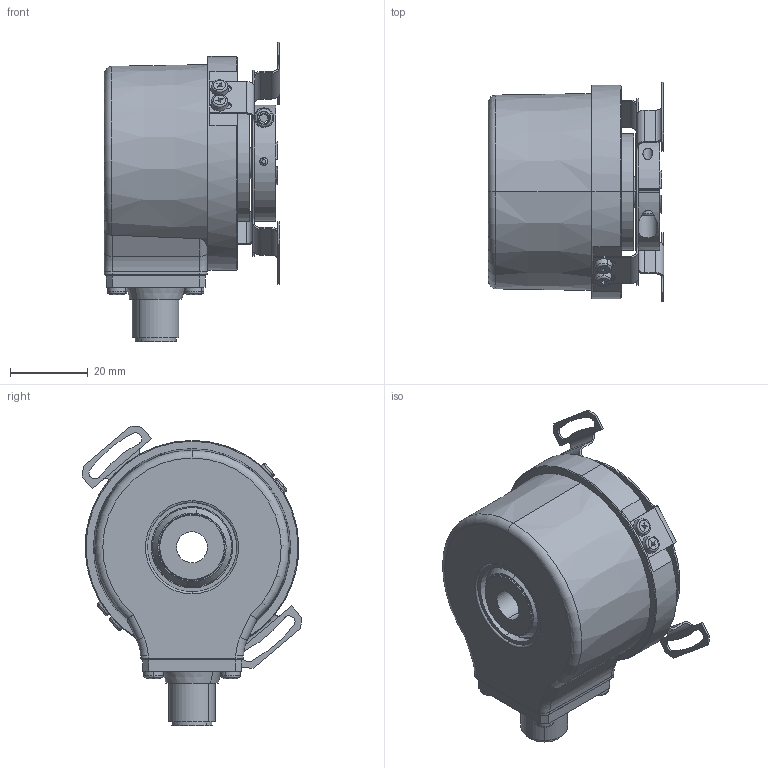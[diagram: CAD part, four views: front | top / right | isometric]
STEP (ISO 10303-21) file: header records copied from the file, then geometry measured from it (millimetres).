
FILE_DESCRIPTION (( 'STEP AP214' ), '1' );
FILE_NAME ('5020.D9X2.XXXX.STEP', '2011-01-11T07:47:25', ( 'admin' ), ( 'Fritz Kübler GmbH' ), 'SwSTEP 2.0', 'SolidWorks 2009', '' );
FILE_SCHEMA (( 'AUTOMOTIVE_DESIGN' ));
Length unit declared in the file: millimetre
Products named in the file (1): 5020.D9X2.XXXX
Bounding box: 45.2 x 56.46 x 77.19 mm (x, y, z)
Surface area: 20579.2 mm2 (no closed solid volume)
Topology: 0 solids, 27 shells, 408 faces, 1143 edges, 747 vertices
Faces by surface type: plane 199, cylinder 124, torus 30, cone 27, sphere 24, bspline 4
Entity records: 17728 total; most frequent: CARTESIAN_POINT 2742, DIRECTION 2320, ORIENTED_EDGE 1976, EDGE_CURVE 1111, AXIS2_PLACEMENT_3D 859, VERTEX_POINT 731, VECTOR 602, LINE 602
